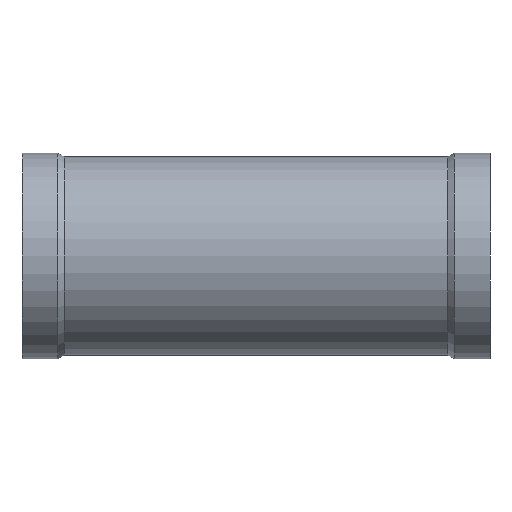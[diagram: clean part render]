
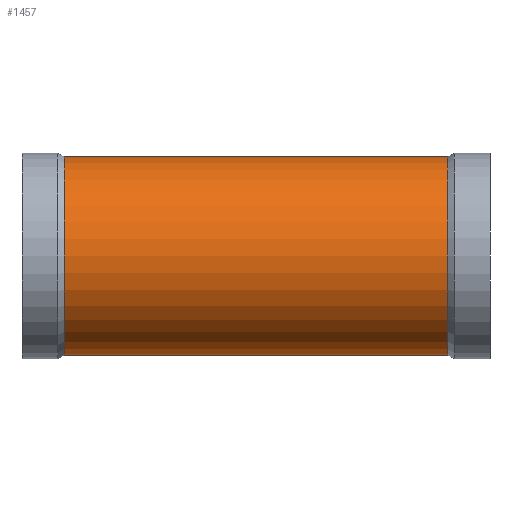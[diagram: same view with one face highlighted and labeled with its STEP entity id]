
A CAD part, left-side view. The second image highlights one B-rep face of the part: STEP entity #1457.
In plain terms, the highlighted cylindrical face has radius 53 mm (diameter 106 mm), a partial arc.
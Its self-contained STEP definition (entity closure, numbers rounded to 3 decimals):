
#162 = CARTESIAN_POINT ( 'NONE',  ( 0., 22.464, 0. ) ) ;
#177 = VECTOR ( 'NONE', #1326, 1000. ) ;
#236 = VERTEX_POINT ( 'NONE', #626 ) ;
#245 = EDGE_CURVE ( 'NONE', #236, #583, #1127, .T. ) ;
#281 = EDGE_LOOP ( 'NONE', ( #1477, #2015, #1635, #1353 ) ) ;
#308 = DIRECTION ( 'NONE',  ( 0., 0., 1. ) ) ;
#390 = EDGE_CURVE ( 'NONE', #674, #1217, #2182, .T. ) ;
#444 = EDGE_CURVE ( 'NONE', #1217, #583, #1447, .T. ) ;
#538 = CARTESIAN_POINT ( 'NONE',  ( 0., 227.536, 0. ) ) ;
#583 = VERTEX_POINT ( 'NONE', #1659 ) ;
#626 = CARTESIAN_POINT ( 'NONE',  ( 0., 22.464, -53. ) ) ;
#648 = CARTESIAN_POINT ( 'NONE',  ( 0., 22.464, 53. ) ) ;
#674 = VERTEX_POINT ( 'NONE', #648 ) ;
#732 = DIRECTION ( 'NONE',  ( 0., -1., 0. ) ) ;
#809 = FACE_OUTER_BOUND ( 'NONE', #281, .T. ) ;
#962 = CARTESIAN_POINT ( 'NONE',  ( 0., -200.048, -53. ) ) ;
#969 = AXIS2_PLACEMENT_3D ( 'NONE', #162, #1471, #308 ) ;
#1127 = LINE ( 'NONE', #962, #2060 ) ;
#1217 = VERTEX_POINT ( 'NONE', #1246 ) ;
#1246 = CARTESIAN_POINT ( 'NONE',  ( 0., 227.536, 53. ) ) ;
#1283 = DIRECTION ( 'NONE',  ( 0., 1., 0. ) ) ;
#1326 = DIRECTION ( 'NONE',  ( 0., 1., 0. ) ) ;
#1344 = CARTESIAN_POINT ( 'NONE',  ( 0., -200.048, 53. ) ) ;
#1353 = ORIENTED_EDGE ( 'NONE', *, *, #444, .T. ) ;
#1405 = DIRECTION ( 'NONE',  ( 0., 0., 1. ) ) ;
#1430 = AXIS2_PLACEMENT_3D ( 'NONE', #2163, #1283, #1474 ) ;
#1447 = CIRCLE ( 'NONE', #1923, 53. ) ;
#1457 = ADVANCED_FACE ( 'NONE', ( #809 ), #1786, .T. ) ;
#1471 = DIRECTION ( 'NONE',  ( 0., 1., 0. ) ) ;
#1474 = DIRECTION ( 'NONE',  ( 0., 0., 1. ) ) ;
#1477 = ORIENTED_EDGE ( 'NONE', *, *, #245, .F. ) ;
#1598 = DIRECTION ( 'NONE',  ( 0., 1., 0. ) ) ;
#1635 = ORIENTED_EDGE ( 'NONE', *, *, #390, .T. ) ;
#1643 = CIRCLE ( 'NONE', #969, 53. ) ;
#1659 = CARTESIAN_POINT ( 'NONE',  ( 0., 227.536, -53. ) ) ;
#1786 = CYLINDRICAL_SURFACE ( 'NONE', #1430, 53. ) ;
#1923 = AXIS2_PLACEMENT_3D ( 'NONE', #538, #732, #1405 ) ;
#2015 = ORIENTED_EDGE ( 'NONE', *, *, #2168, .T. ) ;
#2060 = VECTOR ( 'NONE', #1598, 1000. ) ;
#2163 = CARTESIAN_POINT ( 'NONE',  ( 0., -200.048, 0. ) ) ;
#2168 = EDGE_CURVE ( 'NONE', #236, #674, #1643, .T. ) ;
#2182 = LINE ( 'NONE', #1344, #177 ) ;
